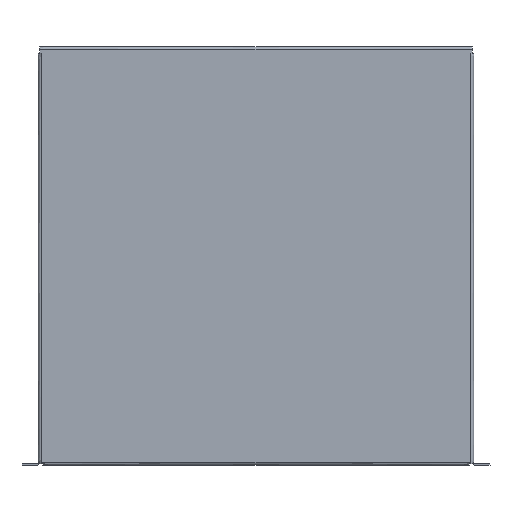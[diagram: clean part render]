
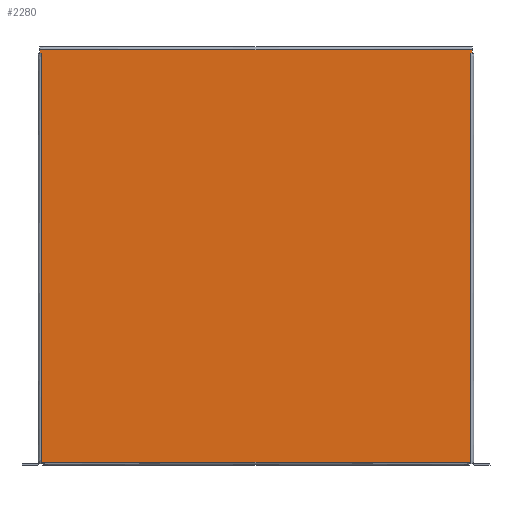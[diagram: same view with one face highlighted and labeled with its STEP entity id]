
A CAD part, front view. The second image highlights one B-rep face of the part: STEP entity #2280.
In plain terms, the highlighted free-form (B-spline) face has degree [1, 1] with [2, 2] control points.
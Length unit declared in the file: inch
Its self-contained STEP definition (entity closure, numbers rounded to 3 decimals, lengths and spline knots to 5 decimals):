
#662=CARTESIAN_POINT('V142',(-0.117,-0.055,
   0.06));
#663=VERTEX_POINT('V142',#662);
#664=CARTESIAN_POINT('V143',(-17.461,-0.055,
   0.06));
#665=VERTEX_POINT('V143',#664);
#666=CARTESIAN_POINT('E160',(-0.117,-0.055,
   0.06));
#667=CARTESIAN_POINT('E160',(-17.461,-0.055,
   0.06));
#668=QUASI_UNIFORM_CURVE('E160',1,(#666,#667),.POLYLINE_FORM.,.F.,
   .U.);
#669=EDGE_CURVE('E160',#663,#665,#668,.T.);
#989=CARTESIAN_POINT('V185',(-17.578,-0.055,
   16.83));
#990=VERTEX_POINT('V185',#989);
#991=CARTESIAN_POINT('V186',(0.,-0.055,
   16.83));
#992=VERTEX_POINT('V186',#991);
#993=CARTESIAN_POINT('E212',(-17.578,-0.055,
   16.83));
#994=CARTESIAN_POINT('E212',(0.,-0.055,
   16.83));
#995=QUASI_UNIFORM_CURVE('E212',1,(#993,#994),.POLYLINE_FORM.,.F.,
   .U.);
#996=EDGE_CURVE('E212',#990,#992,#995,.T.);
#1876=CARTESIAN_POINT('V152',(-17.518,-0.055,
   0.));
#1877=VERTEX_POINT('V152',#1876);
#1891=CARTESIAN_POINT('V151',(-17.518,-0.055,
   16.677));
#1892=VERTEX_POINT('V151',#1891);
#1893=CARTESIAN_POINT('E168',(-17.518,-0.055,
   0.));
#1894=CARTESIAN_POINT('E168',(-17.518,-0.055,
   16.677));
#1895=B_SPLINE_CURVE_WITH_KNOTS('E168',1,(#1893,#1894),
   .POLYLINE_FORM.,.F.,.U.,(2,2),(0.05357,
   0.94643),.UNSPECIFIED.);
#1896=EDGE_CURVE('E168',#1877,#1892,#1895,.T.);
#1935=CARTESIAN_POINT('V190',(-17.461,-0.055,
   0.));
#1936=VERTEX_POINT('V190',#1935);
#1937=CARTESIAN_POINT('E220',(-17.461,-0.055,
   0.));
#1938=CARTESIAN_POINT('E220',(-17.461,-0.055,
   0.06));
#1939=B_SPLINE_CURVE_WITH_KNOTS('E220',1,(#1937,#1938),
   .POLYLINE_FORM.,.F.,.U.,(2,2),(0.94309,
   0.94628),.UNSPECIFIED.);
#1940=EDGE_CURVE('E220',#1936,#665,#1939,.T.);
#1963=CARTESIAN_POINT('E219',(-17.518,-0.055,
   0.0));
#1964=CARTESIAN_POINT('E219',(-17.461,-0.055,
   0.0));
#1965=B_SPLINE_CURVE_WITH_KNOTS('E219',1,(#1963,#1964),
   .POLYLINE_FORM.,.F.,.U.,(2,2),(0.94062,
   0.94352),.UNSPECIFIED.);
#1966=EDGE_CURVE('E219',#1877,#1936,#1965,.T.);
#2069=CARTESIAN_POINT('V189',(-17.578,-0.055,
   16.677));
#2070=VERTEX_POINT('V189',#2069);
#2071=CARTESIAN_POINT('E218',(-17.578,-0.055,
   16.677));
#2072=CARTESIAN_POINT('E218',(-17.518,-0.055,
   16.677));
#2073=B_SPLINE_CURVE_WITH_KNOTS('E218',1,(#2071,#2072),
   .POLYLINE_FORM.,.F.,.U.,(2,2),(0.94323,
   0.94628),.UNSPECIFIED.);
#2074=EDGE_CURVE('E218',#2070,#1892,#2073,.T.);
#2097=CARTESIAN_POINT('E217',(-17.578,-0.055,
   16.83));
#2098=CARTESIAN_POINT('E217',(-17.578,-0.055,
   16.677));
#2099=B_SPLINE_CURVE_WITH_KNOTS('E217',1,(#2097,#2098),
   .POLYLINE_FORM.,.F.,.U.,(2,2),(0.05357,
   0.06169),.UNSPECIFIED.);
#2100=EDGE_CURVE('E217',#990,#2070,#2099,.T.);
#2202=CARTESIAN_POINT('V188',(0.,-0.055,
   16.677));
#2203=VERTEX_POINT('V188',#2202);
#2204=CARTESIAN_POINT('E216',(0.,-0.055,
   16.677));
#2205=CARTESIAN_POINT('E216',(0.,-0.055,
   16.83));
#2206=B_SPLINE_CURVE_WITH_KNOTS('E216',1,(#2204,#2205),
   .POLYLINE_FORM.,.F.,.U.,(2,2),(0.05318,
   0.0613),.UNSPECIFIED.);
#2207=EDGE_CURVE('E216',#2203,#992,#2206,.T.);
#2230=CARTESIAN_POINT('V148',(-0.06,-0.055,
   16.677));
#2231=VERTEX_POINT('V148',#2230);
#2232=CARTESIAN_POINT('E215',(-0.06,-0.055,
   16.677));
#2233=CARTESIAN_POINT('E215',(0.,-0.055,
   16.677));
#2234=B_SPLINE_CURVE_WITH_KNOTS('E215',1,(#2232,#2233),
   .POLYLINE_FORM.,.F.,.U.,(2,2),(0.05372,
   0.05677),.UNSPECIFIED.);
#2235=EDGE_CURVE('E215',#2231,#2203,#2234,.T.);
#2245=CARTESIAN_POINT('F57',(1.05468,-0.055,
   17.8398));
#2246=CARTESIAN_POINT('F57',(-18.63268,-0.055,
   17.8398));
#2247=CARTESIAN_POINT('F57',(1.05468,-0.055,
   -1.0098));
#2248=CARTESIAN_POINT('F57',(-18.63268,-0.055,
   -1.0098));
#2249=QUASI_UNIFORM_SURFACE('F57',1,1,((#2245,#2247),(#2246,#2248))
,.PLANE_SURF.,.F.,.F.,.U.);
#2250=CARTESIAN_POINT('V187',(-0.117,-0.055,
   0.0));
#2251=VERTEX_POINT('V187',#2250);
#2252=CARTESIAN_POINT('E213',(-0.117,-0.055,
   0.06));
#2253=CARTESIAN_POINT('E213',(-0.117,-0.055,
   0.));
#2254=B_SPLINE_CURVE_WITH_KNOTS('E213',1,(#2252,#2253),
   .POLYLINE_FORM.,.F.,.U.,(2,2),(0.94325,
   0.94643),.UNSPECIFIED.);
#2255=EDGE_CURVE('E213',#663,#2251,#2254,.T.);
#2256=ORIENTED_EDGE('E213',*,*,#2255,.T.);
#2257=CARTESIAN_POINT('V147',(-0.06,-0.055,
   0.0));
#2258=VERTEX_POINT('V147',#2257);
#2259=CARTESIAN_POINT('E214',(-0.117,-0.055,
   0.0));
#2260=CARTESIAN_POINT('E214',(-0.06,-0.055,
   0.0));
#2261=B_SPLINE_CURVE_WITH_KNOTS('E214',1,(#2259,#2260),
   .POLYLINE_FORM.,.F.,.U.,(2,2),(0.05648,
   0.05938),.UNSPECIFIED.);
#2262=EDGE_CURVE('E214',#2251,#2258,#2261,.T.);
#2263=ORIENTED_EDGE('E214',*,*,#2262,.T.);
#2264=CARTESIAN_POINT('E163',(-0.06,-0.055,
   16.677));
#2265=CARTESIAN_POINT('E163',(-0.06,-0.055,
   0.));
#2266=B_SPLINE_CURVE_WITH_KNOTS('E163',1,(#2264,#2265),
   .POLYLINE_FORM.,.F.,.U.,(2,2),(0.05357,
   0.94643),.UNSPECIFIED.);
#2267=EDGE_CURVE('E163',#2231,#2258,#2266,.T.);
#2268=ORIENTED_EDGE('E163',*,*,#2267,.F.);
#2269=ORIENTED_EDGE('E215',*,*,#2235,.T.);
#2270=ORIENTED_EDGE('E216',*,*,#2207,.T.);
#2271=ORIENTED_EDGE('E212',*,*,#996,.F.);
#2272=ORIENTED_EDGE('E217',*,*,#2100,.T.);
#2273=ORIENTED_EDGE('E218',*,*,#2074,.T.);
#2274=ORIENTED_EDGE('E168',*,*,#1896,.F.);
#2275=ORIENTED_EDGE('E219',*,*,#1966,.T.);
#2276=ORIENTED_EDGE('E220',*,*,#1940,.T.);
#2277=ORIENTED_EDGE('E160',*,*,#669,.F.);
#2278=EDGE_LOOP('F57',(#2256,#2263,#2268,#2269,#2270,#2271,#2272,
   #2273,#2274,#2275,#2276,#2277));
#2279=FACE_OUTER_BOUND('F57',#2278,.T.);
#2280=ADVANCED_FACE('F57',(#2279),#2249,.T.);
